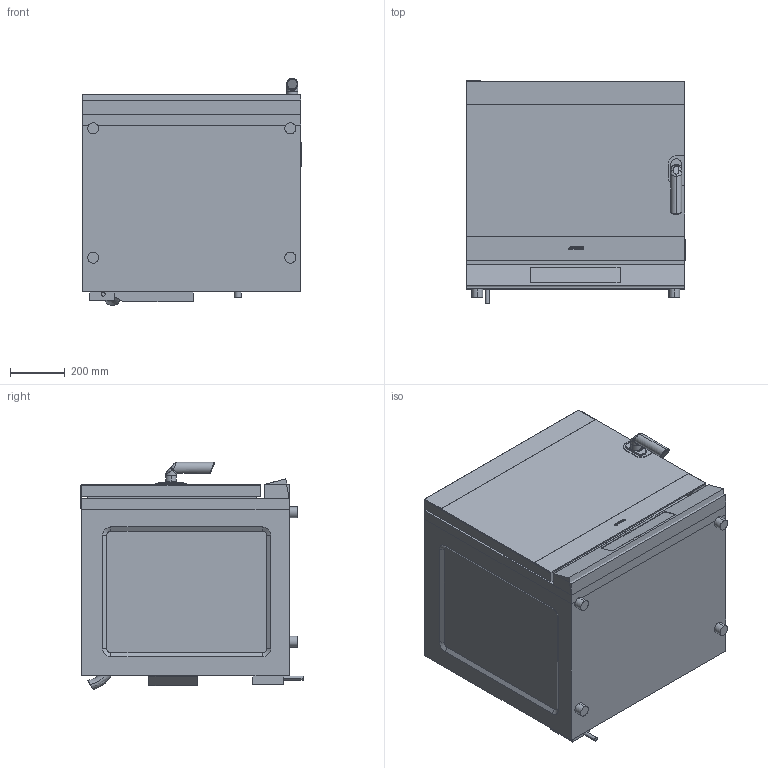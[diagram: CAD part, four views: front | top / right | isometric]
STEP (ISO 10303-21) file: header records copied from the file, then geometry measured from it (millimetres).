
FILE_DESCRIPTION (( 'STEP AP203' ), '1' );
FILE_NAME ('ALFA625EH.STEP', '2020-05-20T13:56:59', ( '' ), ( '' ), 'SwSTEP 2.0', 'SolidWorks 2018', '' );
FILE_SCHEMA (( 'CONFIG_CONTROL_DESIGN' ));
Length unit declared in the file: millimetre
Products named in the file (1): ALFA625EH
Bounding box: 800 x 811.9 x 830.74 mm (x, y, z)
Volume: 409922549.2 mm3; surface area: 8552601.6 mm2
Topology: 21 solids, 21 shells, 301 faces, 711 edges, 465 vertices
Faces by surface type: plane 169, cylinder 85, bspline 34, cone 10, torus 3
Entity records: 9816 total; most frequent: CARTESIAN_POINT 2978, ORIENTED_EDGE 1410, DIRECTION 1369, EDGE_CURVE 705, AXIS2_PLACEMENT_3D 468, VERTEX_POINT 465, VECTOR 433, LINE 433
